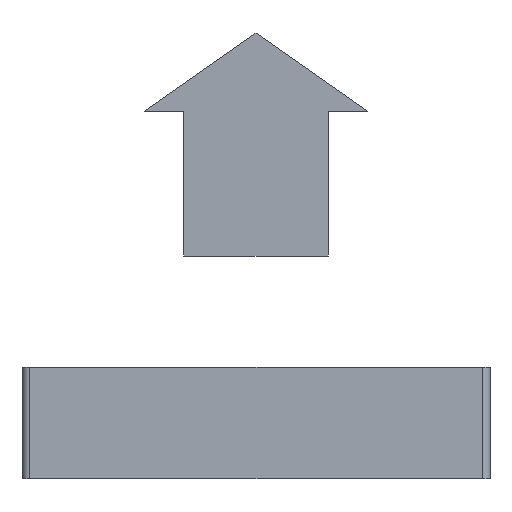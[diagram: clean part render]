
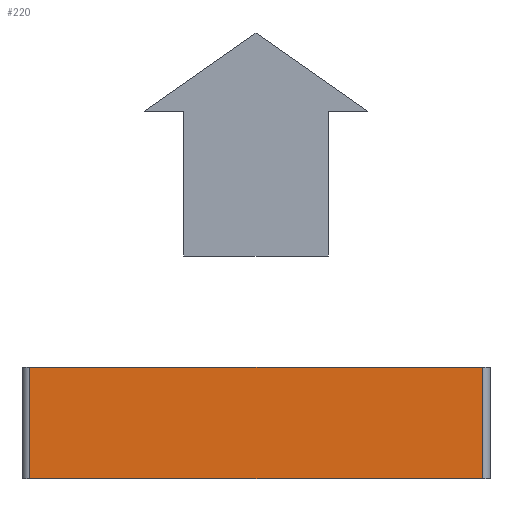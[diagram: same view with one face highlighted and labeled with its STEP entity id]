
A CAD part, left-side view. The second image highlights one B-rep face of the part: STEP entity #220.
In plain terms, the highlighted planar face has unit normal (-1, 0, 0).
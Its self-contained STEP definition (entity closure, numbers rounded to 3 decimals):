
#220 = ADVANCED_FACE( '', ( #451 ), #452, .T. );
#451 = FACE_OUTER_BOUND( '', #692, .T. );
#452 = PLANE( '', #693 );
#692 = EDGE_LOOP( '', ( #1551, #1552, #1553, #1554 ) );
#693 = AXIS2_PLACEMENT_3D( '', #1555, #1556, #1557 );
#1551 = ORIENTED_EDGE( '', *, *, #1773, .T. );
#1552 = ORIENTED_EDGE( '', *, *, #1901, .F. );
#1553 = ORIENTED_EDGE( '', *, *, #1814, .F. );
#1554 = ORIENTED_EDGE( '', *, *, #1907, .T. );
#1555 = CARTESIAN_POINT( '', ( -21., 20.3, 0. ) );
#1556 = DIRECTION( '', ( -1., 0., 0. ) );
#1557 = DIRECTION( '', ( 0., 1., 0. ) );
#1773 = EDGE_CURVE( '', #2180, #2177, #2181, .T. );
#1814 = EDGE_CURVE( '', #2241, #2243, #2244, .T. );
#1901 = EDGE_CURVE( '', #2243, #2177, #2382, .T. );
#1907 = EDGE_CURVE( '', #2241, #2180, #2388, .T. );
#2177 = VERTEX_POINT( '', #2746 );
#2180 = VERTEX_POINT( '', #2749 );
#2181 = LINE( '', #2750, #2751 );
#2241 = VERTEX_POINT( '', #2829 );
#2243 = VERTEX_POINT( '', #2831 );
#2244 = LINE( '', #2832, #2833 );
#2382 = LINE( '', #3030, #3031 );
#2388 = LINE( '', #3042, #3043 );
#2746 = CARTESIAN_POINT( '', ( -21., -20.3, -10. ) );
#2749 = CARTESIAN_POINT( '', ( -21., 20.3, -10. ) );
#2750 = CARTESIAN_POINT( '', ( -21., 20.3, -10. ) );
#2751 = VECTOR( '', #3375, 1. );
#2829 = CARTESIAN_POINT( '', ( -21., 20.3, 0. ) );
#2831 = CARTESIAN_POINT( '', ( -21., -20.3, 0. ) );
#2832 = CARTESIAN_POINT( '', ( -21., 20.3, 0. ) );
#2833 = VECTOR( '', #3460, 1. );
#3030 = CARTESIAN_POINT( '', ( -21., -20.3, 0. ) );
#3031 = VECTOR( '', #3601, 1. );
#3042 = CARTESIAN_POINT( '', ( -21., 20.3, 0. ) );
#3043 = VECTOR( '', #3607, 1. );
#3375 = DIRECTION( '', ( 0., -1., 0. ) );
#3460 = DIRECTION( '', ( 0., -1., 0. ) );
#3601 = DIRECTION( '', ( 0., 0., -1. ) );
#3607 = DIRECTION( '', ( 0., 0., -1. ) );
